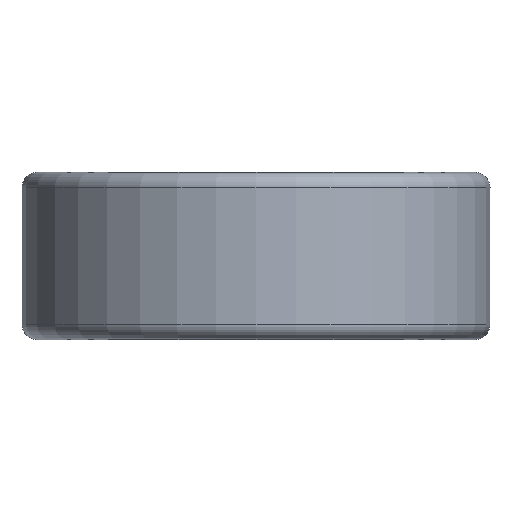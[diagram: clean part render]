
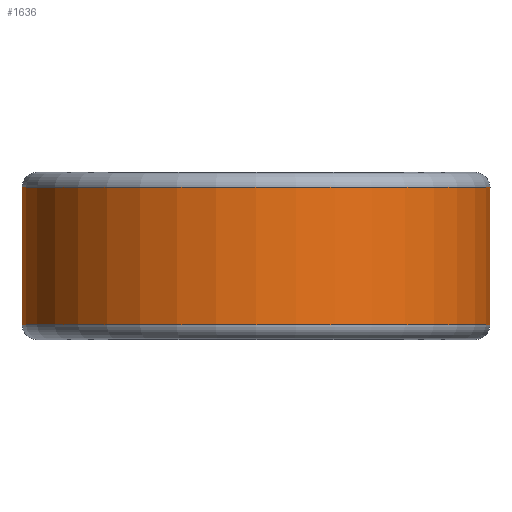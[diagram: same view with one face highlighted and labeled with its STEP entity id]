
A CAD part, left-side view. The second image highlights one B-rep face of the part: STEP entity #1636.
In plain terms, the highlighted cylindrical face has radius 21 mm (diameter 42 mm), a partial arc.
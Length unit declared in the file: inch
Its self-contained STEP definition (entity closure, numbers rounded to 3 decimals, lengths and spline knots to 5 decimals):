
#146=CARTESIAN_POINT('',(0.82618,-0.0313,
0.05314));
#156=DIRECTION('',(0.,0.,1.));
#157=VECTOR('',#156,0.48426);
#158=CARTESIAN_POINT('',(0.82618,-0.0313,
0.05314));
#159=LINE('',#158,#157);
#168=CARTESIAN_POINT('',(0.82618,-0.0313,
0.53741));
#230=CARTESIAN_POINT('',(0.82618,0.0313,
0.53741));
#240=DIRECTION('',(0.,0.,-1.));
#241=VECTOR('',#240,0.48426);
#242=CARTESIAN_POINT('',(0.82618,0.0313,
0.53741));
#243=LINE('',#242,#241);
#252=CARTESIAN_POINT('',(0.82618,0.0313,
0.05314));
#478=DIRECTION('',(0.,0.,1.));
#479=VECTOR('',#478,0.02187);
#480=CARTESIAN_POINT('',(0.78573,0.25725,
0.153));
#481=LINE('',#480,#479);
#482=CARTESIAN_POINT('',(0.63,0.5354,0.08434));
#483=CARTESIAN_POINT('',(0.64368,0.5193,
0.08434));
#484=CARTESIAN_POINT('',(0.67168,0.48388,
0.08697));
#485=CARTESIAN_POINT('',(0.71385,0.4197,
0.10004));
#486=CARTESIAN_POINT('',(0.75313,0.34487,
0.122));
#487=CARTESIAN_POINT('',(0.77574,0.28776,
0.14207));
#488=CARTESIAN_POINT('',(0.78573,0.25725,
0.153));
#490=CARTESIAN_POINT('',(0.63,0.5354,0.50621));
#491=CARTESIAN_POINT('',(0.61571,0.55222,
0.50621));
#492=CARTESIAN_POINT('',(0.58749,0.5827,
0.50329));
#493=CARTESIAN_POINT('',(0.54778,0.61995,
0.49099));
#494=CARTESIAN_POINT('',(0.51203,0.64959,
0.47164));
#495=CARTESIAN_POINT('',(0.48166,0.67226,
0.44688));
#496=CARTESIAN_POINT('',(0.4569,0.68922,
0.41777));
#497=CARTESIAN_POINT('',(0.43802,0.70128,
0.3853));
#498=CARTESIAN_POINT('',(0.42529,0.70903,
0.35045));
#499=CARTESIAN_POINT('',(0.41876,0.71287,
0.31374));
#500=CARTESIAN_POINT('',(0.41883,0.71283,
0.27627));
#501=CARTESIAN_POINT('',(0.42544,0.70894,
0.23957));
#502=CARTESIAN_POINT('',(0.43825,0.70114,
0.20476));
#503=CARTESIAN_POINT('',(0.45719,0.68902,
0.17237));
#504=CARTESIAN_POINT('',(0.48194,0.67206,
0.14342));
#505=CARTESIAN_POINT('',(0.51224,0.64942,
0.11875));
#506=CARTESIAN_POINT('',(0.5479,0.61984,
0.09956));
#507=CARTESIAN_POINT('',(0.58752,0.58267,
0.08724));
#508=CARTESIAN_POINT('',(0.61571,0.55221,
0.08434));
#509=CARTESIAN_POINT('',(0.63,0.5354,0.08434));
#511=CARTESIAN_POINT('',(0.78573,0.25725,
0.43755));
#512=CARTESIAN_POINT('',(0.77574,0.28777,
0.44849));
#513=CARTESIAN_POINT('',(0.75312,0.34488,
0.46853));
#514=CARTESIAN_POINT('',(0.71385,0.4197,
0.49054));
#515=CARTESIAN_POINT('',(0.67168,0.48388,
0.50356));
#516=CARTESIAN_POINT('',(0.64368,0.5193,
0.50621));
#517=CARTESIAN_POINT('',(0.63,0.5354,0.50621));
#519=DIRECTION('',(0.,0.,1.));
#520=VECTOR('',#519,0.02187);
#521=CARTESIAN_POINT('',(0.78573,0.25725,
0.41568));
#522=LINE('',#521,#520);
#523=DIRECTION('',(0.,0.,-1.));
#524=VECTOR('',#523,0.24082);
#525=CARTESIAN_POINT('',(0.78573,0.25725,
0.41568));
#526=LINE('',#525,#524);
#527=CARTESIAN_POINT('',(0.,0.,0.05315));
#528=DIRECTION('',(0.,0.,-1.));
#529=DIRECTION('',(0.999,-0.038,0.));
#530=AXIS2_PLACEMENT_3D('',#527,#528,#529);
#747=CARTESIAN_POINT('',(0.,0.,0.5374));
#748=DIRECTION('',(0.,0.,1.));
#749=DIRECTION('',(0.999,0.038,0.));
#750=AXIS2_PLACEMENT_3D('',#747,#748,#749);
#752=CARTESIAN_POINT('',(0.63,-0.5354,0.19371));
#753=CARTESIAN_POINT('',(0.62174,-0.54512,
0.19371));
#754=CARTESIAN_POINT('',(0.60568,-0.5631,
0.19573));
#755=CARTESIAN_POINT('',(0.58403,-0.58543,
0.20378));
#756=CARTESIAN_POINT('',(0.56543,-0.60334,
0.21589));
#757=CARTESIAN_POINT('',(0.55047,-0.61696,
0.23098));
#758=CARTESIAN_POINT('',(0.5393,-0.6267,
0.24813));
#759=CARTESIAN_POINT('',(0.53196,-0.63292,
0.26647));
#760=CARTESIAN_POINT('',(0.52828,-0.63598,
0.2856));
#761=CARTESIAN_POINT('',(0.52829,-0.63597,
0.30504));
#762=CARTESIAN_POINT('',(0.53198,-0.6329,
0.32415));
#763=CARTESIAN_POINT('',(0.53931,-0.62669,
0.34243));
#764=CARTESIAN_POINT('',(0.55045,-0.61696,
0.35955));
#765=CARTESIAN_POINT('',(0.5654,-0.60337,
0.37464));
#766=CARTESIAN_POINT('',(0.58398,-0.58548,
0.38675));
#767=CARTESIAN_POINT('',(0.60565,-0.56314,
0.39481));
#768=CARTESIAN_POINT('',(0.62173,-0.54513,
0.39684));
#769=CARTESIAN_POINT('',(0.63,-0.5354,0.39684));
#771=CARTESIAN_POINT('',(0.63,-0.5354,0.39684));
#772=CARTESIAN_POINT('',(0.63829,-0.52564,
0.39684));
#773=CARTESIAN_POINT('',(0.65364,-0.50666,
0.39483));
#774=CARTESIAN_POINT('',(0.67289,-0.4807,
0.38801));
#775=CARTESIAN_POINT('',(0.68887,-0.45741,
0.37866));
#776=CARTESIAN_POINT('',(0.70187,-0.43714,
0.36766));
#777=CARTESIAN_POINT('',(0.71232,-0.41984,
0.35545));
#778=CARTESIAN_POINT('',(0.72055,-0.40548,
0.34213));
#779=CARTESIAN_POINT('',(0.72666,-0.3944,
0.32777));
#780=CARTESIAN_POINT('',(0.73071,-0.38682,
0.31176));
#781=CARTESIAN_POINT('',(0.73208,-0.38424,
0.29409));
#782=CARTESIAN_POINT('',(0.73032,-0.38753,
0.27672));
#783=CARTESIAN_POINT('',(0.72614,-0.39538,
0.26135));
#784=CARTESIAN_POINT('',(0.72005,-0.40638,
0.2475));
#785=CARTESIAN_POINT('',(0.7119,-0.42055,
0.23454));
#786=CARTESIAN_POINT('',(0.70148,-0.43776,
0.22251));
#787=CARTESIAN_POINT('',(0.68849,-0.458,
0.21162));
#788=CARTESIAN_POINT('',(0.67253,-0.48121,
0.20238));
#789=CARTESIAN_POINT('',(0.65336,-0.50702,
0.19566));
#790=CARTESIAN_POINT('',(0.63818,-0.52577,
0.19371));
#791=CARTESIAN_POINT('',(0.63,-0.5354,0.19371));
#853=VERTEX_POINT('',#146);
#854=VERTEX_POINT('',#168);
#869=VERTEX_POINT('',#230);
#871=VERTEX_POINT('',#252);
#915=CARTESIAN_POINT('',(0.78573,0.25725,
0.153));
#916=CARTESIAN_POINT('',(0.78573,0.25725,
0.17487));
#917=VERTEX_POINT('',#915);
#918=VERTEX_POINT('',#916);
#919=VERTEX_POINT('',#482);
#920=VERTEX_POINT('',#490);
#921=VERTEX_POINT('',#511);
#922=CARTESIAN_POINT('',(0.78573,0.25725,
0.41568));
#923=VERTEX_POINT('',#922);
#924=VERTEX_POINT('',#752);
#925=VERTEX_POINT('',#769);
#1604=CARTESIAN_POINT('',(0.,0.,0.59055));
#1605=DIRECTION('',(0.,0.,-1.));
#1606=DIRECTION('',(-1.,0.,0.));
#1607=AXIS2_PLACEMENT_3D('',#1604,#1605,#1606);
#1608=CYLINDRICAL_SURFACE('',#1607,0.82677);
#1609=ORIENTED_EDGE('',*,*,#1590,.T.);
#1610=ORIENTED_EDGE('',*,*,#1188,.F.);
#1612=ORIENTED_EDGE('',*,*,#1611,.T.);
#1613=ORIENTED_EDGE('',*,*,#1107,.F.);
#1614=EDGE_LOOP('',(#1609,#1610,#1612,#1613));
#1615=FACE_OUTER_BOUND('',#1614,.F.);
#1617=ORIENTED_EDGE('',*,*,#1616,.F.);
#1619=ORIENTED_EDGE('',*,*,#1618,.F.);
#1621=ORIENTED_EDGE('',*,*,#1620,.F.);
#1623=ORIENTED_EDGE('',*,*,#1622,.F.);
#1625=ORIENTED_EDGE('',*,*,#1624,.F.);
#1627=ORIENTED_EDGE('',*,*,#1626,.T.);
#1628=EDGE_LOOP('',(#1617,#1619,#1621,#1623,#1625,#1627));
#1629=FACE_BOUND('',#1628,.F.);
#1631=ORIENTED_EDGE('',*,*,#1630,.F.);
#1633=ORIENTED_EDGE('',*,*,#1632,.F.);
#1634=EDGE_LOOP('',(#1631,#1633));
#1635=FACE_BOUND('',#1634,.F.);
#489=B_SPLINE_CURVE_WITH_KNOTS('',3,(#482,#483,#484,#485,#486,#487,#488),
.UNSPECIFIED.,.F.,.F.,(4,1,1,1,4),(0.,0.25,0.5,0.75,1.),
.UNSPECIFIED.);
#510=B_SPLINE_CURVE_WITH_KNOTS('',3,(#490,#491,#492,#493,#494,#495,#496,#497,
#498,#499,#500,#501,#502,#503,#504,#505,#506,#507,#508,#509),.UNSPECIFIED.,.F.,
.F.,(4,1,1,1,1,1,1,1,1,1,1,1,1,1,1,1,1,4),(0.,0.05882,
0.11765,0.17647,0.23529,0.29412,
0.35294,0.41176,0.47059,0.52941,
0.58824,0.64706,0.70588,0.76471,
0.82353,0.88235,0.94118,1.),.UNSPECIFIED.);
#518=B_SPLINE_CURVE_WITH_KNOTS('',3,(#511,#512,#513,#514,#515,#516,#517),
.UNSPECIFIED.,.F.,.F.,(4,1,1,1,4),(0.,0.25,0.5,0.75,1.),
.UNSPECIFIED.);
#531=CIRCLE('',#530,0.82677);
#751=CIRCLE('',#750,0.82677);
#770=B_SPLINE_CURVE_WITH_KNOTS('',3,(#752,#753,#754,#755,#756,#757,#758,#759,
#760,#761,#762,#763,#764,#765,#766,#767,#768,#769),.UNSPECIFIED.,.F.,.F.,(4,1,1,
1,1,1,1,1,1,1,1,1,1,1,1,4),(0.,0.06667,0.13333,0.2,
0.26667,0.33333,0.4,0.46667,0.53333,
0.6,0.66667,0.73333,0.8,0.86667,
0.93333,1.),.UNSPECIFIED.);
#792=B_SPLINE_CURVE_WITH_KNOTS('',3,(#771,#772,#773,#774,#775,#776,#777,#778,
#779,#780,#781,#782,#783,#784,#785,#786,#787,#788,#789,#790,#791),.UNSPECIFIED.,
.F.,.F.,(4,1,1,1,1,1,1,1,1,1,1,1,1,1,1,1,1,1,4),(0.,0.05556,
0.11111,0.16667,0.22222,0.27778,
0.33333,0.38889,0.44444,0.5,0.55556,
0.61111,0.66667,0.72222,0.77778,
0.83333,0.88889,0.94444,1.),.UNSPECIFIED.);
#1107=EDGE_CURVE('',#853,#854,#159,.T.);
#1188=EDGE_CURVE('',#869,#871,#243,.T.);
#1590=EDGE_CURVE('',#853,#871,#531,.T.);
#1611=EDGE_CURVE('',#869,#854,#751,.T.);
#1616=EDGE_CURVE('',#917,#918,#481,.T.);
#1618=EDGE_CURVE('',#919,#917,#489,.T.);
#1620=EDGE_CURVE('',#920,#919,#510,.T.);
#1622=EDGE_CURVE('',#921,#920,#518,.T.);
#1624=EDGE_CURVE('',#923,#921,#522,.T.);
#1626=EDGE_CURVE('',#923,#918,#526,.T.);
#1630=EDGE_CURVE('',#924,#925,#770,.T.);
#1632=EDGE_CURVE('',#925,#924,#792,.T.);
#1636=ADVANCED_FACE('',(#1615,#1629,#1635),#1608,.T.);
